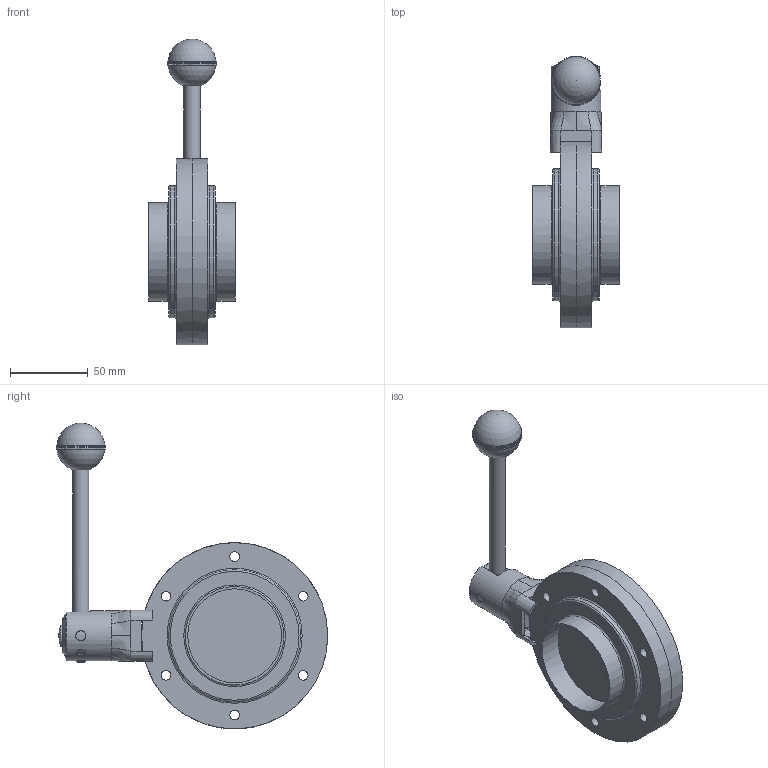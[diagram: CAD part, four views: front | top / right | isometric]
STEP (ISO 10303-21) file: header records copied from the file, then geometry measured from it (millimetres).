
FILE_DESCRIPTION(/* description */ ('VVF VALV.FARF.DN63.5 S/S EPDM 316 LEVA INOX 3POS.'),/* implementation_level */ '2;1');
FILE_NAME(/* name */ 'C:\_DED_PWS\ZIGN-L\DB\B\EBA\BEBAAL212BEBV-00^SAGOMA.step',/* time_stamp */ '2022-08-12T09:45:03+02:00',/* author */ ('malp-m'),/* organization */ (''),/* preprocessor_version */ 'ST-DEVELOPER v18.1',/* originating_system */ 'Autodesk Inventor 2022',/* authorisation */ '');
FILE_SCHEMA (('CONFIG_CONTROL_DESIGN'));
Length unit declared in the file: millimetre
Products named in the file (3): BEBAAL212BEBV; TNU430065AAA; TWDBB0657
Assembly tree (3 placements, depth 2):
  BEBAAL212BEBV
    TNU430065AAA
    TWDBB0657  x2
Bounding box: 56 x 174.92 x 197.01 mm (x, y, z)
Volume: 349570.5 mm3; surface area: 96262 mm2
Topology: 4 solids, 5 shells, 551 faces, 1360 edges, 893 vertices
Faces by surface type: plane 355, torus 85, cylinder 60, bspline 38, cone 9, sphere 4
Full cylindrical faces by diameter (mm): 6 x2, 6.2 x12, 6.5 x3, 9 x3, 9.3 x1, 10 x1, 10.4 x1, 10.5 x1, 11 x1, 11.1 x1, 11.4 x2, 13.4 x1, 13.5 x2, 15 x1, 15.2 x1, 27.8 x1, 28.4 x1, 32.2 x1, 60.5 x2, 63.5 x2, 85 x2, 120 x2
Entity records: 26671 total; most frequent: CARTESIAN_POINT 13664, ORIENTED_EDGE 2602, DIRECTION 2594, EDGE_CURVE 1301, AXIS2_PLACEMENT_3D 1080, VERTEX_POINT 859, EDGE_LOOP 632, CIRCLE 584
